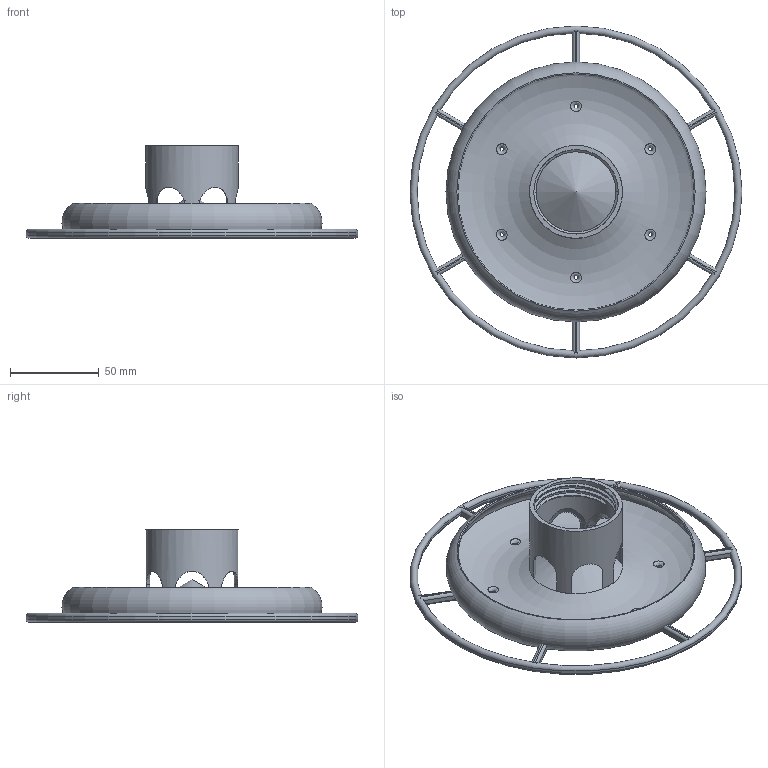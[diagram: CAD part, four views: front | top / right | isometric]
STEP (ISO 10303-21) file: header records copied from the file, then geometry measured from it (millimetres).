
FILE_DESCRIPTION(/* description */ ('STEP AP242','CAx-IF Rec.Pracs.---Representation and Presentation of Product Manufacturing Information (PMI)---4.0---2014-10-13','CAx-IF Rec.Pracs.---3D Tessellated Geometry---0.4---2014-09-14','2;1'),/* implementation_level */ '2;1');
FILE_NAME(/* name */ '6901f071fafd5454ff227040',/* time_stamp */ '2025-10-29T10:46:10Z',/* author */ (''),/* organization */ (''),/* preprocessor_version */ 'ST-DEVELOPER v20',/* originating_system */ 'ONSHAPE BY PTC INC, 1.205',/* authorisation */ ' ');
FILE_SCHEMA (('AP242_MANAGED_MODEL_BASED_3D_ENGINEERING_MIM_LF { 1 0 10303 442 1 1 4 }'));
Length unit declared in the file: metre
Products named in the file (14): Part 3; Part 8; Part 4; Part 2; Curve 1; Part 9; Part 7; Part 1; Part 6; Part 10; Part 11; Part 12; Part 13; Part 5
Bounding box: 186.79 x 186.79 x 51.93 mm (x, y, z)
Volume: 104351.5 mm3; surface area: 75639.8 mm2
Topology: 13 solids, 13 shells, 196 faces, 435 edges, 263 vertices
Faces by surface type: cylinder 87, plane 77, bspline 18, torus 8, cone 6
Full cylindrical faces by diameter (mm): 45.1 x3, 47.5 x4, 52.3 x1, 132.889 x1, 178.792 x1, 186.792 x1
Entity records: 6622 total; most frequent: CARTESIAN_POINT 2209, DIRECTION 836, ORIENTED_EDGE 804, EDGE_CURVE 402, AXIS2_PLACEMENT_3D 304, VERTEX_POINT 252, FACE_BOUND 232, EDGE_LOOP 230
